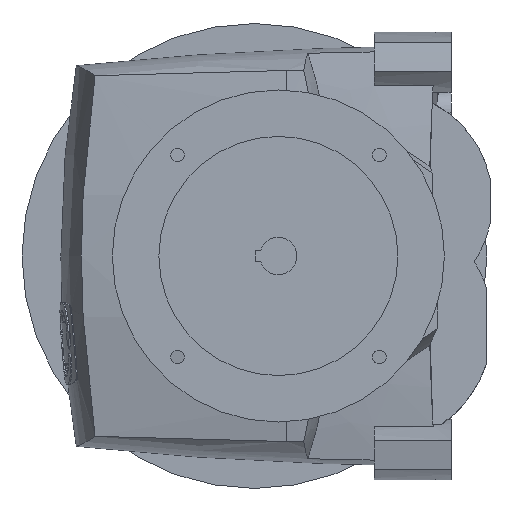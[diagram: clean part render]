
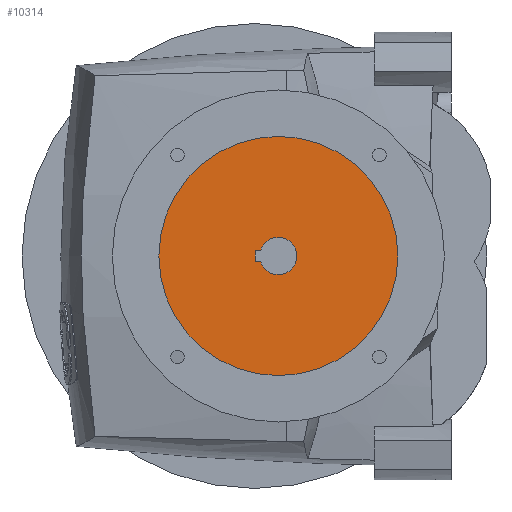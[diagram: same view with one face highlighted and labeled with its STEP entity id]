
A CAD part, left-side view. The second image highlights one B-rep face of the part: STEP entity #10314.
In plain terms, the highlighted planar face has unit normal (-1, 0, 0).
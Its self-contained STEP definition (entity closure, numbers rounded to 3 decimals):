
#2192=CARTESIAN_POINT('',(-163.5,162.,0.));
#2193=DIRECTION('',(-1.,0.,0.));
#2194=DIRECTION('',(0.,1.,0.));
#2195=AXIS2_PLACEMENT_3D('',#2192,#2193,#2194);
#2201=CARTESIAN_POINT('',(-163.5,162.,0.));
#2202=DIRECTION('',(1.,0.,0.));
#2203=DIRECTION('',(0.,1.,0.));
#2204=AXIS2_PLACEMENT_3D('',#2201,#2202,#2203);
#2206=DIRECTION('',(0.,-1.,0.));
#2207=VECTOR('',#2206,3.884);
#2208=CARTESIAN_POINT('',(-163.5,179.3,-4.));
#2209=LINE('',#2208,#2207);
#2210=CARTESIAN_POINT('',(-163.5,162.,0.));
#2211=DIRECTION('',(-1.,0.,0.));
#2212=DIRECTION('',(0.,0.958,-0.286));
#2213=AXIS2_PLACEMENT_3D('',#2210,#2211,#2212);
#2215=DIRECTION('',(0.,1.,0.));
#2216=VECTOR('',#2215,3.884);
#2217=CARTESIAN_POINT('',(-163.5,175.416,4.));
#2218=LINE('',#2217,#2216);
#2219=DIRECTION('',(0.,0.,-1.));
#2220=VECTOR('',#2219,8.);
#2221=CARTESIAN_POINT('',(-163.5,179.3,4.));
#2222=LINE('',#2221,#2220);
#7050=CARTESIAN_POINT('',(-163.5,252.,0.));
#7052=VERTEX_POINT('',#7050);
#7058=CARTESIAN_POINT('',(-163.5,72.,0.));
#7060=VERTEX_POINT('',#7058);
#7123=CARTESIAN_POINT('',(-163.5,179.3,-4.));
#7124=CARTESIAN_POINT('',(-163.5,175.416,-4.));
#7125=VERTEX_POINT('',#7123);
#7126=VERTEX_POINT('',#7124);
#7127=CARTESIAN_POINT('',(-163.5,175.416,4.));
#7128=VERTEX_POINT('',#7127);
#7129=CARTESIAN_POINT('',(-163.5,179.3,4.));
#7130=VERTEX_POINT('',#7129);
#10295=CARTESIAN_POINT('',(-163.5,162.,0.));
#10296=DIRECTION('',(1.,0.,0.));
#10297=DIRECTION('',(0.,1.,0.));
#10298=AXIS2_PLACEMENT_3D('',#10295,#10296,#10297);
#10299=PLANE('',#10298);
#10300=ORIENTED_EDGE('',*,*,#10274,.F.);
#10301=ORIENTED_EDGE('',*,*,#10290,.T.);
#10302=EDGE_LOOP('',(#10300,#10301));
#10303=FACE_OUTER_BOUND('',#10302,.F.);
#10305=ORIENTED_EDGE('',*,*,#10304,.T.);
#10307=ORIENTED_EDGE('',*,*,#10306,.T.);
#10309=ORIENTED_EDGE('',*,*,#10308,.T.);
#10311=ORIENTED_EDGE('',*,*,#10310,.T.);
#10312=EDGE_LOOP('',(#10305,#10307,#10309,#10311));
#10313=FACE_BOUND('',#10312,.F.);
#10314=ADVANCED_FACE('',(#10303,#10313),#10299,.F.);
#2196=CIRCLE('',#2195,90.);
#2205=CIRCLE('',#2204,90.);
#2214=CIRCLE('',#2213,14.);
#10274=EDGE_CURVE('',#7052,#7060,#2196,.T.);
#10290=EDGE_CURVE('',#7052,#7060,#2205,.T.);
#10304=EDGE_CURVE('',#7125,#7126,#2209,.T.);
#10306=EDGE_CURVE('',#7126,#7128,#2214,.T.);
#10308=EDGE_CURVE('',#7128,#7130,#2218,.T.);
#10310=EDGE_CURVE('',#7130,#7125,#2222,.T.);
